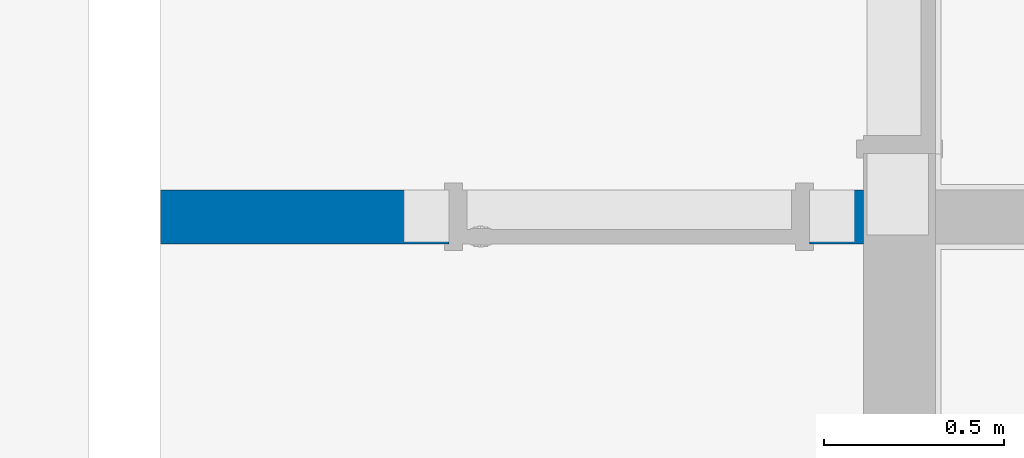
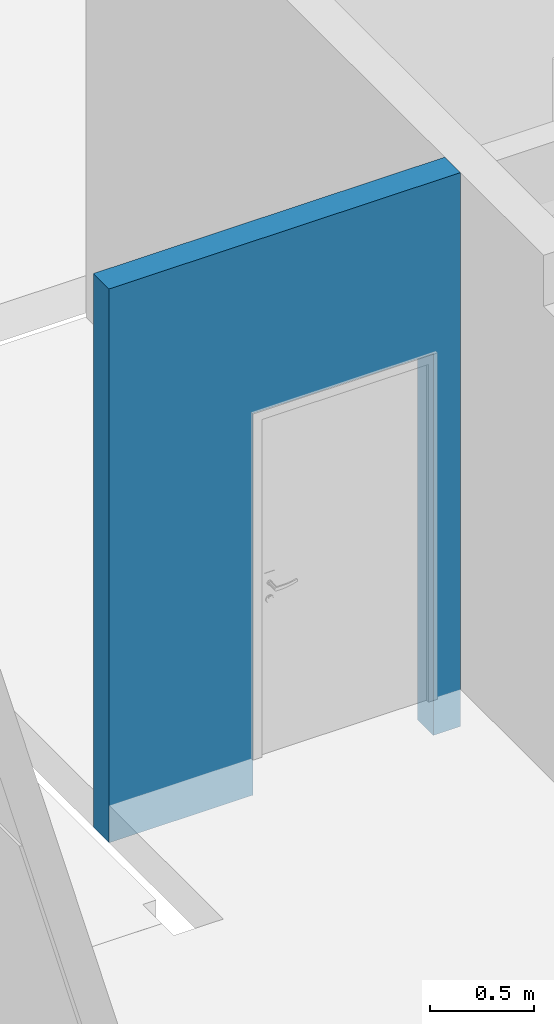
# One storey, part 19 of 21: 1 wall, 1 opening.
"""IFC4 building model written with IfcOpenShell, lengths in millimetres."""

from ifc_helpers import new_model, entity, si_unit, converted_unit, derived_unit, direction, frame, origin_with_axes, place, context, subcontext, project, spatial, polygons, material, constituent, constituent_set, type_object, element, save


model = new_model("IFC4")

# Units and contexts
model_context = context("Model", 3, precision=0.01, world=origin_with_axes(), true_north=direction((0.0, 1.0)))
body_context = subcontext(model_context, "Body", "Model", "MODEL_VIEW")
ifc_project = project(units=[si_unit("LENGTHUNIT", "METRE", prefix="MILLI"), si_unit("AREAUNIT", "SQUARE_METRE"), si_unit("VOLUMEUNIT", "CUBIC_METRE"), converted_unit("PLANEANGLEUNIT", "DEGREE", entity("IfcPlaneAngleMeasure", 0.0174532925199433), si_unit("PLANEANGLEUNIT", "RADIAN"), dimensions=[0, 0, 0, 0, 0, 0, 0]), converted_unit("TIMEUNIT", "Year", entity("IfcTimeMeasure", 31557600.0), si_unit("TIMEUNIT", "SECOND"), dimensions=[0, 0, 1, 0, 0, 0, 0]), si_unit("MASSUNIT", "GRAM", prefix="KILO"), si_unit("THERMODYNAMICTEMPERATUREUNIT", "DEGREE_CELSIUS"), si_unit("LUMINOUSINTENSITYUNIT", "LUMEN"), si_unit("ENERGYUNIT", "JOULE", prefix="MEGA"), derived_unit("THERMALCONDUCTANCEUNIT", [(si_unit("POWERUNIT", "WATT"), 1), (si_unit("LENGTHUNIT", "METRE"), -1), (si_unit("THERMODYNAMICTEMPERATUREUNIT", "KELVIN"), -1)]), derived_unit("SPECIFICHEATCAPACITYUNIT", [(si_unit("ENERGYUNIT", "JOULE"), 1), (si_unit("MASSUNIT", "GRAM", prefix="KILO"), -1), (si_unit("THERMODYNAMICTEMPERATUREUNIT", "KELVIN"), -1)]), derived_unit("MASSDENSITYUNIT", [(si_unit("MASSUNIT", "GRAM", prefix="KILO"), 1), (si_unit("VOLUMEUNIT", "CUBIC_METRE"), -1)])], contexts=[model_context])

# Site, building, storey
site_placement = place(None, origin_with_axes())
site = spatial("IfcSite", under=ifc_project, at=site_placement, Name="Exteriér", CompositionType="ELEMENT")
building_placement = place(site_placement, origin_with_axes())
building = spatial("IfcBuilding", under=site, at=building_placement, Name="Univerzitní lezecké centrum", CompositionType="ELEMENT")
storey_placement = place(building_placement, frame((0.0, 0.0, -3350.0), z_axis=(0.0, 0.0, 1.0), x_axis=(1.0, 0.0, 0.0)))
storey = spatial("IfcBuildingStorey", under=building, at=storey_placement, Name="1.PP", CompositionType="ELEMENT", Elevation=-3350.0)

# Wall, opening
ifc_material = material(Name="Keramické tvárnice nenosné tl. 150 mm")
ifc_constituent = constituent(ifc_material, Name="Keramické tvárnice nenosné tl. 150 mm")
ifc_constituent_set = constituent_set(constituents=[ifc_constituent], Name="!Vnitřní keramická stěna 150 mm - nenosná")
wall_type = type_object("IfcWallType", Name="!Vnitřní keramická stěna 150 mm - nenosná 150", PredefinedType="NOTDEFINED")
wall_placement = place(storey_placement, frame((6850.112166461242, 949.9999999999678, -220.0000000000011), z_axis=(0.0, 0.0, 1.0), x_axis=(-1.0, 0.0, 0.0)))
wall = element("IfcWall", 1, at=wall_placement, inside=storey, type_object=wall_type, material=ifc_constituent_set, Name="St07", PredefinedType="NOTDEFINED", context=body_context, shape_type="Tessellation", body=[
    polygons([(1150.000013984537, 149.9999855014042, 0.500000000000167), (1150.000013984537, 4.918574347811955e-05, 0.500000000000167), (1150.0, 0.0, 220.0000000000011), (1150.0, 149.9999999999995, 220.0000000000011), (1150.000013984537, 4.918574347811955e-05, 0.0), (1150.000013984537, 149.9999855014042, 0.0), (149.9999339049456, 4.918574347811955e-05, 0.0), (149.9999339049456, 4.918574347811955e-05, 0.500000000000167), (150.0000000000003, 0.0, 220.0000000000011), (150.0000000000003, 0.0, 2240.000000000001), (1150.0, 0.0, 2240.000000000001), (1950.16100486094, 0.0, 0.0), (1950.16100486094, 0.0, 3250.000000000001), (0.0, 0.0, 3250.0), (0.0, 0.0, 0.0), (1275.0, 0.0, 2321.0), (1275.0, 0.0, 2250.000000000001), (25.00000000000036, 0.0, 2250.000000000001), (25.00000000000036, 0.0, 2321.0), (1150.0, 150.0000000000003, 2240.000000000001), (149.9999339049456, 149.9999855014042, 0.500000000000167), (149.9999339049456, 149.9999855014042, 0.0), (0.0, 149.9999999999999, 0.0), (0.0, 150.0000000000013, 3250.0), (1950.16100486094, 149.9999999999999, 3250.000000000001), (1950.16100486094, 149.9999999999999, 0.0), (150.0000000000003, 150.0000000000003, 2240.000000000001), (150.0000000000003, 149.9999999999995, 220.0000000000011), (1275.0, 144.274998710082, 2321.0), (1275.0, 144.274998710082, 2250.000000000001), (1275.0, 11.4424999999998, 2280.499637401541), (1275.0, 11.4424999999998, 2260.499637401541), (1275.0, 33.33249999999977, 2260.499637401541), (1275.0, 33.33249999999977, 2280.499637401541), (1275.0, 11.4424999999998, 2310.500000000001), (1275.0, 11.4424999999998, 2290.5), (1275.0, 33.33249999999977, 2290.5), (1275.0, 33.33249999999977, 2310.500000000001), (1275.0, 110.9413637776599, 2260.499637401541), (1275.0, 132.8313637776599, 2260.499637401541), (1275.0, 132.8313637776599, 2280.499637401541), (1275.0, 110.9413637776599, 2280.499637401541), (1275.0, 132.8313637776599, 2310.500000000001), (1275.0, 110.9413637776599, 2310.500000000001), (1275.0, 110.9413637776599, 2290.5), (1275.0, 132.8313637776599, 2290.5), (25.00000000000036, 144.274998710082, 2250.000000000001), (25.00000000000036, 144.274998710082, 2321.0), (25.00000000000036, 33.33250000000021, 2260.499637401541), (25.00000000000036, 11.44250000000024, 2260.499637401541), (25.00000000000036, 11.44250000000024, 2280.499637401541), (25.00000000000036, 33.33250000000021, 2280.499637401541), (25.00000000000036, 33.33250000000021, 2290.5), (25.00000000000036, 11.44250000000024, 2290.5), (25.00000000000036, 11.44250000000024, 2310.500000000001), (25.00000000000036, 33.33250000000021, 2310.500000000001), (25.00000000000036, 132.8313637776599, 2280.499637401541), (25.00000000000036, 132.8313637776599, 2260.499637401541), (25.00000000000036, 110.9413637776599, 2260.499637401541), (25.00000000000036, 110.9413637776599, 2280.499637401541), (25.00000000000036, 110.9413637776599, 2290.5), (25.00000000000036, 110.9413637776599, 2310.500000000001), (25.00000000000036, 132.8313637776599, 2310.500000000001), (25.00000000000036, 132.8313637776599, 2290.5)], [[[1, 2, 3, 4]], [[5, 2, 1, 6]], [[7, 8, 9, 10, 11, 3, 2, 5, 12, 13, 14, 15], [16, 17, 18, 19]], [[20, 4, 3, 11]], [[21, 22, 23, 24, 25, 26, 6, 1, 4, 20, 27, 28]], [[5, 6, 26, 12]], [[21, 8, 7, 22]], [[8, 21, 28, 9]], [[28, 27, 10, 9]], [[27, 20, 11, 10]], [[13, 12, 26, 25]], [[13, 25, 24, 14]], [[24, 23, 15, 14]], [[22, 7, 15, 23]], [[16, 29, 30, 17], [31, 32, 33, 34], [35, 36, 37, 38], [39, 40, 41, 42], [43, 44, 45, 46]], [[47, 18, 17, 30]], [[48, 19, 18, 47], [49, 50, 51, 52], [53, 54, 55, 56], [57, 58, 59, 60], [61, 62, 63, 64]], [[48, 29, 16, 19]], [[48, 47, 30, 29]], [[51, 50, 32, 31]], [[50, 49, 33, 32]], [[49, 52, 34, 33]], [[52, 51, 31, 34]], [[55, 54, 36, 35]], [[54, 53, 37, 36]], [[53, 56, 38, 37]], [[56, 55, 35, 38]], [[59, 58, 40, 39]], [[58, 57, 41, 40]], [[57, 60, 42, 41]], [[60, 59, 39, 42]], [[63, 62, 44, 43]], [[62, 61, 45, 44]], [[61, 64, 46, 45]], [[64, 63, 43, 46]]], closed=True),
])
opening_placement = place(wall_placement, frame((650.0000000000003, 0.0, 220.0000000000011), z_axis=(0.0, 0.0, 1.0), x_axis=(1.0, 0.0, 0.0)))
element("IfcOpeningElement", 2, at=opening_placement, cuts=wall, Name="D08", context=body_context, identifier="Reference", shape_type="Tessellation", body=[
    polygons([(500.0, -1.000000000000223, 2020.0), (-500.0, -1.000000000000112, 2020.0), (-500.0, -1.000000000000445, 0.0), (500.0, -1.000000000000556, 0.0), (512.0000000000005, -1.000000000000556, 0.0), (512.0000000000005, -1.000000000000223, 2032.0), (-512.0000000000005, -1.000000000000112, 2032.0), (-512.0000000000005, -1.000000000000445, 0.0), (500.0, 0.0, 0.0), (-500.0, 0.0, 0.0), (-500.0, 150.0, 0.0), (-500.0, 151.0000000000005, 0.0), (500.0, 151.0000000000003, 0.0), (500.0, 149.9999999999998, 0.0), (512.0000000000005, 0.0, 0.0), (512.0000000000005, 0.0, 2032.0), (-512.0000000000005, 0.0, 2032.0), (-512.0000000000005, 0.0, 0.0), (-500.0, 0.0, 2020.0), (-500.0, 150.0000000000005, 2020.0), (-512.0000000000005, 150.0, 0.0), (-512.0000000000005, 151.0000000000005, 0.0), (-512.0000000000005, 151.0000000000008, 2032.0), (512.0000000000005, 151.0000000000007, 2032.0), (512.0000000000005, 151.0000000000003, 0.0), (512.0000000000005, 149.9999999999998, 0.0), (500.0, 0.0, 2020.0), (500.0, 150.0000000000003, 2020.0), (512.0000000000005, 150.0000000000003, 2032.0), (-512.0000000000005, 150.0000000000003, 2032.0)], [[[1, 2, 3, 4]], [[3, 2, 1, 4, 5, 6, 7, 8]], [[9, 4, 3, 10, 11, 12, 13, 14]], [[4, 9, 15, 5]], [[15, 16, 6, 5]], [[16, 17, 7, 6]], [[17, 18, 8, 7]], [[10, 3, 8, 18]], [[10, 19, 20, 11]], [[12, 11, 21, 22]], [[13, 12, 22, 23, 24, 25]], [[14, 13, 25, 26]], [[27, 9, 14, 28]], [[27, 19, 10, 18, 17, 16, 15, 9]], [[19, 27, 28, 20]], [[11, 20, 28, 14, 26, 29, 30, 21]], [[21, 30, 23, 22]], [[30, 29, 24, 23]], [[29, 26, 25, 24]]], closed=True),
])

save(model, "model.ifc")
